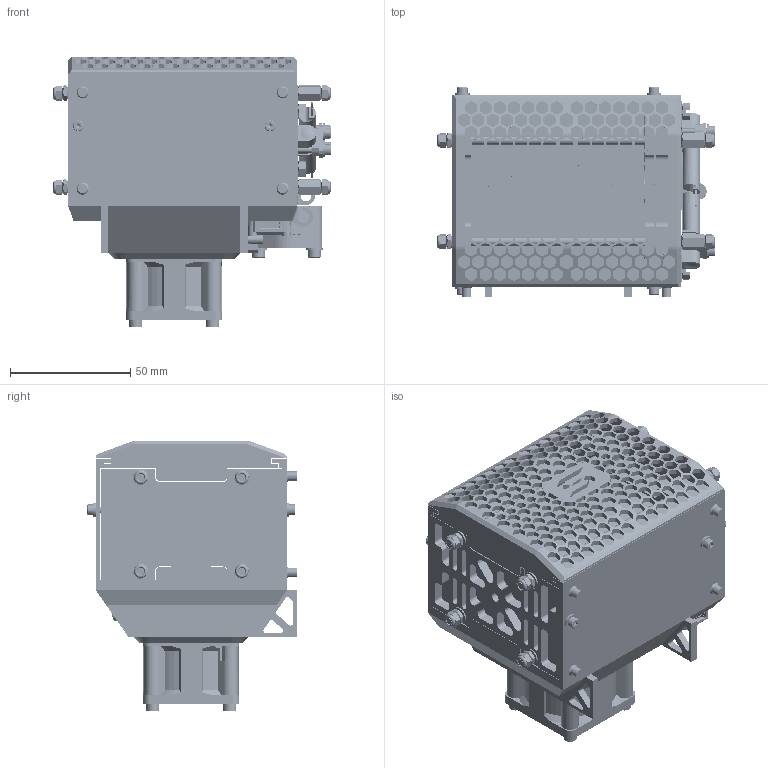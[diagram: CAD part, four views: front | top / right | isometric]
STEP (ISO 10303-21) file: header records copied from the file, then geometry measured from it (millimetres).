
FILE_DESCRIPTION (( 'STEP AP203' ), '1' );
FILE_NAME ('Protium 150_G_20_Assembly_External Download_Jun 2022.STEP', '2022-07-18T07:40:25', ( '' ), ( '' ), 'SwSTEP 2.0', 'SolidWorks 2021', '' );
FILE_SCHEMA (( 'CONFIG_CONTROL_DESIGN' ));
Length unit declared in the file: millimetre
Products named in the file (34): D Sub Contact (Female)_09691817423; Gas blocker_M5; Common_6 Pin Molex_530470610_Housing; Long Nut 10mm; Delta 40x40mm 12VDC; socket head cap screw_am_B18.3.1M - 2.5 x 0.45 x 12 Hex SHCS -- 12NHX; FLY_G_20_Fan Casing_Jun 2022; socket head cap screw_am_B18.3.1M - 2.5 x 0.45 x 10 Hex SHCS -- 10NHX; FLY - Current collector Alu 0.5mm; socket head cap screw_am_B18.3.1M - 3 x 0.5 x 16 Hex SHCS -- 16NHX; socket head cap screw_am_B18.3.1M - 2 x 0.4 x 6 Hex SHCS -- 6NHX; M3 washer; flat washer narrow_am_B18.22M - Plain washer, 2.5 mm, narrow; FLY_G_20_U Casing_Jun 2022; Standoff Nut; M3 Nut; flat washer narrow_am_B18.22M - Plain washer, 3 mm, narrow; socket head cap screw_am_B18.3.1M - 2.5 x 0.45 x 6 Hex SHCS -- 6NHX; Protium 150_G_20_Assembly_External Download_Jun 2022; Lee Valve Mounting_Single; FLY v5_Manifold Module A_Jan 2022_Solid; FLY_G_20_Solid Stack; Header & Wire Housing Vertical 6P_530470610; 115mm Rod; L-Shape Connector (Silicone)_M5; FLY v6_Manifold EP Universal_Jan 2022; D Sub 17W2 (Female)_09693015172; socket head cap screw_am_B18.3.1M - 3 x 0.5 x 35 Hex SHCS -- 18NHX; FLY_G_20_Mask Cover_Jun 2022; FLY v6_Manifold EP Solid_Jan 2022; HFV_LHDX0536400B^LFMX0532750B 14v spike hold; FLY v5_Manifold Module B_Jan 2022_Solid; Pressure Sensor_MPX5100DP; M3 Lock Nut
Assembly tree (95 placements, depth 2):
  Protium 150_G_20_Assembly_External Download_Jun 2022
    FLY v6_Manifold EP Universal_Jan 2022
    FLY v6_Manifold EP Solid_Jan 2022
    Common_6 Pin Molex_530470610_Housing  x2
    Lee Valve Mounting_Single  x2
    FLY_G_20_Fan Casing_Jun 2022
    FLY_G_20_Mask Cover_Jun 2022
    FLY_G_20_U Casing_Jun 2022
    Gas blocker_M5  x2
    L-Shape Connector (Silicone)_M5  x2
    FLY - Current collector Alu 0.5mm  x2
    Header & Wire Housing Vertical 6P_530470610  x2
    Delta 40x40mm 12VDC
    HFV_LHDX0536400B^LFMX0532750B 14v spike hold  x2
    D Sub 17W2 (Female)_09693015172
    D Sub Contact (Female)_09691817423  x2
    Pressure Sensor_MPX5100DP
    FLY v5_Manifold Module A_Jan 2022_Solid
    FLY v5_Manifold Module B_Jan 2022_Solid
    M3 Lock Nut  x8
    Long Nut 10mm  x4
    M3 Nut  x4
    Standoff Nut  x2
    socket head cap screw_am_B18.3.1M - 2.5 x 0.45 x 12 Hex SHCS -- 12NHX  x4
    socket head cap screw_am_B18.3.1M - 3 x 0.5 x 35 Hex SHCS -- 18NHX  x4
    socket head cap screw_am_B18.3.1M - 2.5 x 0.45 x 10 Hex SHCS -- 10NHX  x10
    socket head cap screw_am_B18.3.1M - 2 x 0.4 x 6 Hex SHCS -- 6NHX  x4
    115mm Rod  x4
    socket head cap screw_am_B18.3.1M - 3 x 0.5 x 16 Hex SHCS -- 16NHX  x2
    socket head cap screw_am_B18.3.1M - 2.5 x 0.45 x 6 Hex SHCS -- 6NHX  x4
    flat washer narrow_am_B18.22M - Plain washer, 2.5 mm, narrow  x8
    flat washer narrow_am_B18.22M - Plain washer, 3 mm, narrow  x2
    M3 washer  x8
    FLY_G_20_Solid Stack
Bounding box: 115.19 x 86.8 x 112.45 mm (x, y, z)
Volume: 335853.2 mm3; surface area: 181076.4 mm2
Topology: 96 solids, 101 shells, 7610 faces, 20691 edges, 13457 vertices
Faces by surface type: plane 4092, cylinder 2119, cone 767, bspline 521, torus 84, sphere 27
Full cylindrical faces by diameter (mm): 1.2 x15, 1.4 x2, 1.5 x15, 1.6 x2, 1.981 x6, 2 x9, 2.1 x15, 2.3 x6, 2.5 x34, 2.6 x12, 2.7 x4, 2.769 x12, 3 x34, 3.1 x12, 3.12 x2, 3.14 x8, 3.4 x8, 3.5 x10, 3.6 x20, 3.68 x2, 3.8 x4, 4 x6, 4.04 x2, 4.1 x2, 4.5 x18, 4.72 x2, 4.82 x2, 5 x17, 5.28 x4, 5.5 x6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
Entity records: 354790 total; most frequent: CARTESIAN_POINT 172690, ORIENTED_EDGE 41876, DIRECTION 29470, EDGE_CURVE 20942, VERTEX_POINT 13708, AXIS2_PLACEMENT_3D 10349, EDGE_LOOP 9808, VECTOR 8772
